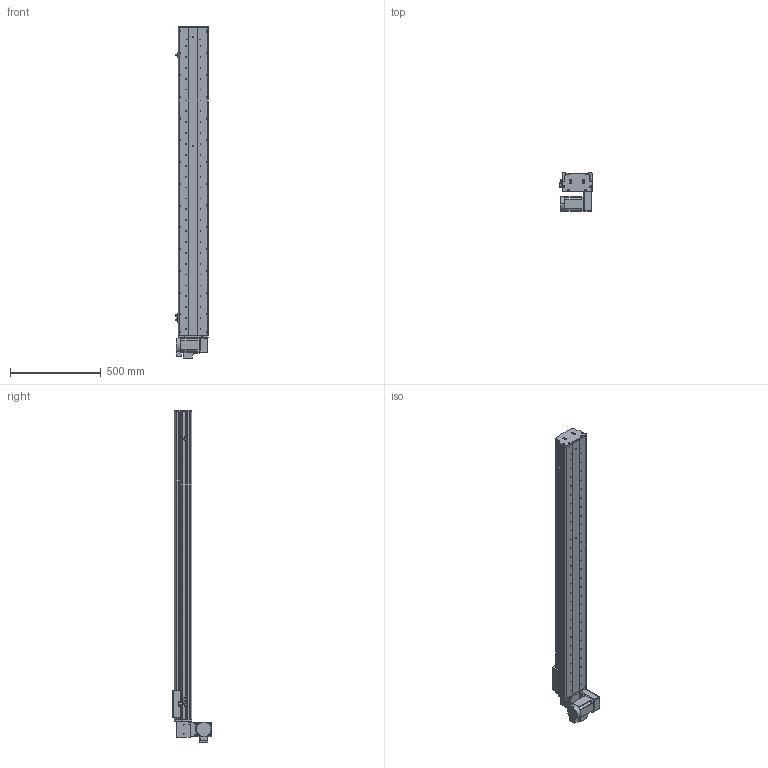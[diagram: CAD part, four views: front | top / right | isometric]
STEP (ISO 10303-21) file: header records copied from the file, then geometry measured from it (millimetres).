
FILE_DESCRIPTION (( 'STEP AP214' ), '1' );
FILE_NAME ('KSD165B-S1450-MRD-CM.STEP', '2017-10-17T00:56:50', ( '微软用户' ), ( '微软中国' ), 'SwSTEP 2.0', 'SolidWorks 2014', '' );
FILE_SCHEMA (( 'AUTOMOTIVE_DESIGN' ));
Length unit declared in the file: millimetre
Products named in the file (17): HTPA26S5M250-A-H8 400W萇儂蚚 ; KSD165模组-同步带防尘盖1-1450行程; KSD165模组同步带底板-1450行程; 拸秶雄ん750W侜督萇儂; 165宽马达安装板同步带右; U倰嫖萇假蚾璃; U倰嫖萇EEㄜSX672; 覜茼え68遵圉猾敕; KSD165模组-同步带-防撞垫2; KSD165模组同步带-防撞垫1; KSD165耀郪-ヶ傷啣1-肮祭湍; KSD165模组-后端板1-同步带; KSD165模组-同步带滑动座-最新版; KSD165B-S1450-MRD-CM; 130宽模组马达安装板连板上下折丝杆同步带; 130宽模组保护罩上下左右折-同步带; HTPA26S5M250-A-H8 750W萇儂蚚
Assembly tree (20 placements, depth 2):
  KSD165B-S1450-MRD-CM
    KSD165模组-同步带滑动座-最新版
    KSD165模组-后端板1-同步带
    KSD165耀郪-ヶ傷啣1-肮祭湍
    KSD165模组同步带-防撞垫1
    KSD165模组-同步带-防撞垫2
    覜茼え68遵圉猾敕
    U倰嫖萇EEㄜSX672  x3
    U倰嫖萇假蚾璃  x3
    165宽马达安装板同步带右
    拸秶雄ん750W侜督萇儂
    KSD165模组同步带底板-1450行程
    KSD165模组-同步带防尘盖1-1450行程
    HTPA26S5M250-A-H8 400W萇儂蚚 
    HTPA26S5M250-A-H8 750W萇儂蚚
    130宽模组保护罩上下左右折-同步带
    130宽模组马达安装板连板上下折丝杆同步带
Bounding box: 178.7 x 210 x 1830.5 mm (x, y, z)
Volume: 9945762.6 mm3; surface area: 2319584.4 mm2
Topology: 21 solids, 21 shells, 2043 faces, 5784 edges, 3780 vertices
Faces by surface type: cylinder 1335, plane 596, cone 112
Entity records: 67140 total; most frequent: CARTESIAN_POINT 13780, DIRECTION 10964, ORIENTED_EDGE 10228, EDGE_CURVE 5114, AXIS2_PLACEMENT_3D 4314, VERTEX_POINT 3372, CIRCLE 2468, LINE 2336
